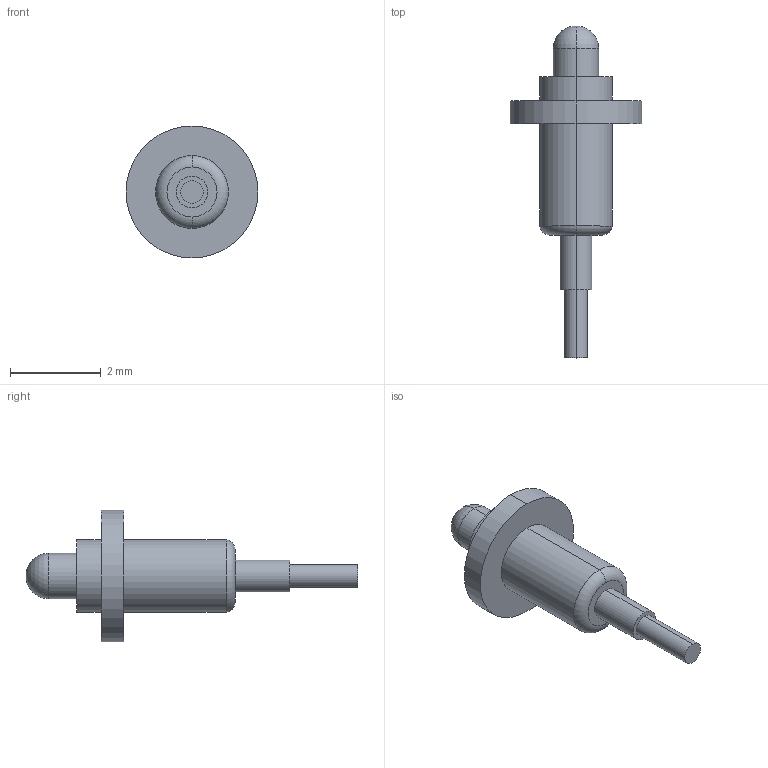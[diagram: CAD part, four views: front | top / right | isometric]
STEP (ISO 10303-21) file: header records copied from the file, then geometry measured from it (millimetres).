
FILE_DESCRIPTION((''),'2;1');
FILE_NAME('NC3818-01PA','2022-05-18T15:33:36',('Administrator'),(''),'CREO PARAMETRIC BY PTC INC, 2018400','CREO PARAMETRIC BY PTC INC, 2018400','');
FILE_SCHEMA(('CONFIG_CONTROL_DESIGN'));
Length unit declared in the file: millimetre
Products named in the file (1): NC3818-01PA
Bounding box: 2.9 x 7.3 x 2.9 mm (x, y, z)
Volume: 10.7 mm3; surface area: 39.9 mm2
Topology: 1 solids, 1 shells, 22 faces, 44 edges, 27 vertices
Faces by surface type: cylinder 12, plane 6, sphere 2, torus 2
Entity records: 610 total; most frequent: DIRECTION 116, CARTESIAN_POINT 91, ORIENTED_EDGE 84, AXIS2_PLACEMENT_3D 52, EDGE_CURVE 42, CIRCLE 30, VERTEX_POINT 27, EDGE_LOOP 27
